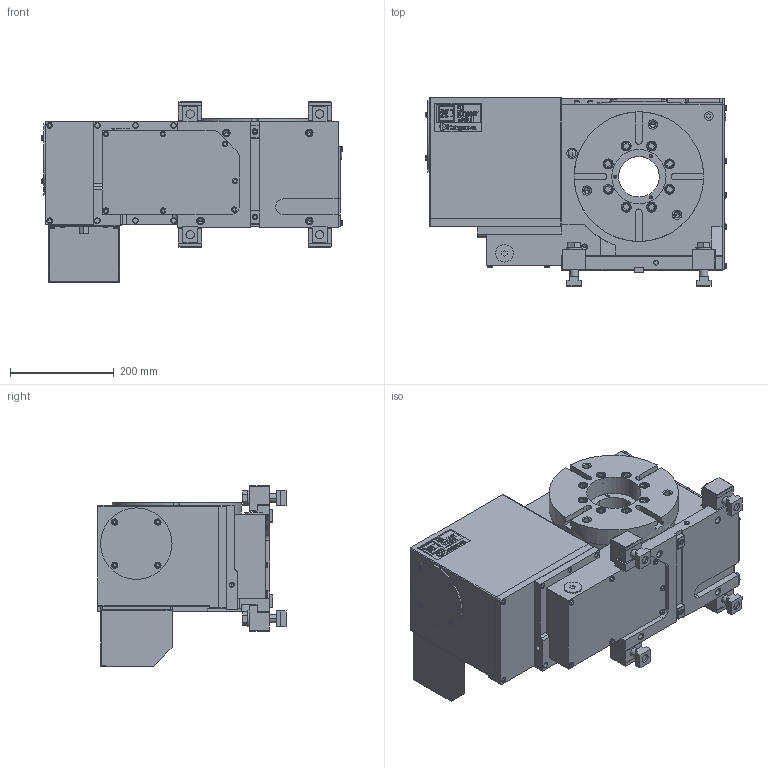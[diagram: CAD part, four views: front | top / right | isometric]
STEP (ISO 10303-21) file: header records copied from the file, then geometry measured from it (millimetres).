
FILE_DESCRIPTION (( 'STEP AP214' ), '1' );
FILE_NAME ('TLX250BF.STEP', '2020-02-28T06:47:42', ( '' ), ( '' ), 'SwSTEP 2.0', 'SolidWorks 2017', '' );
FILE_SCHEMA (( 'AUTOMOTIVE_DESIGN' ));
Length unit declared in the file: millimetre
Products named in the file (17): 儂儞僞僀ASSY(61E1121624)TLX250B01; TLX250BF; CLAMPING PARTS(61E430226)結合; TLX250BFホンタイ; キタガワシール; コネクタカバー（61E3639910）; SMC KQ2E06-02; コネクタプレート（61E4471133）MR200LAF04; 僇僶乕丂俹(61E4458433)MR250RAM01; モータケース(61E2710381)TLX250BF01; フランジ(61E2477550)TLX250BM01; TLX250B01僋儈僞僥(61E112163); 僆僀儖僄儗儊儞僩丂俥俤亅侾俀丂僀儅僆; 僠僃僢僋僶儖僽丂CVR01-A-10W; ガイドブロック(61M4197783); オイルゲージ 207; テーブルT溝250
Assembly tree (21 placements, depth 4):
  TLX250BF
    TLX250BFホンタイ
      TLX250B01僋儈僞僥(61E112163)
        儂儞僞僀ASSY(61E1121624)TLX250B01
        テーブルT溝250
        オイルゲージ 207  x2
        ガイドブロック(61M4197783)  x2
        僠僃僢僋僶儖僽丂CVR01-A-10W
        僆僀儖僄儗儊儞僩丂俥俤亅侾俀丂僀儅僆
      フランジ(61E2477550)TLX250BM01
      モータケース(61E2710381)TLX250BF01
      僇僶乕丂俹(61E4458433)MR250RAM01
      コネクタプレート（61E4471133）MR200LAF04
      SMC KQ2E06-02
      コネクタカバー（61E3639910）
      キタガワシール
    CLAMPING PARTS(61E430226)結合  x4
Bounding box: 580.6 x 363 x 349 mm (x, y, z)
Volume: 32200286.6 mm3; surface area: 1518195.7 mm2
Topology: 19 solids, 36 shells, 3381 faces, 8666 edges, 5647 vertices
Faces by surface type: plane 2462, cylinder 662, cone 185, torus 62, sphere 8, bspline 2
Entity records: 110168 total; most frequent: CARTESIAN_POINT 16954, ORIENTED_EDGE 16302, DIRECTION 16111, EDGE_CURVE 8151, LINE 6555, VECTOR 6555, VERTEX_POINT 5361, AXIS2_PLACEMENT_3D 4778
